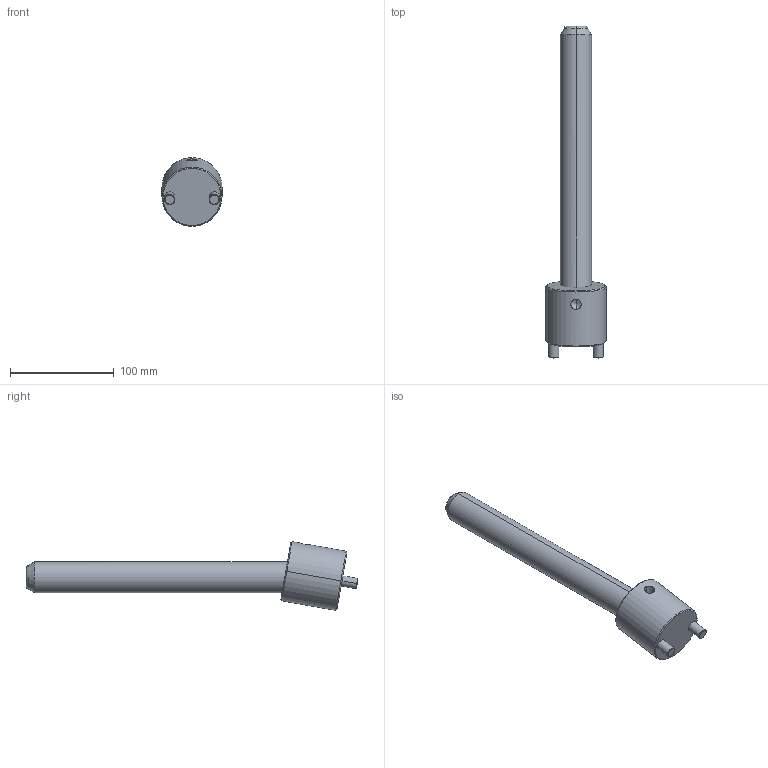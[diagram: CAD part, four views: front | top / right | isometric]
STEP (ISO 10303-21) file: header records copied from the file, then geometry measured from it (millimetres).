
FILE_DESCRIPTION(('CATIA V5 STEP Exchange'),'2;1');
FILE_NAME('C:\Users\Raffaele\Desktop\3D BOLEX\3D FILES CF BOLEX\19-INCLINED ASSEMBLY REF_CI\CI1030250.stp','2019-06-21T14:00:56+00:00',('none'),('none'),'CATIA Version 5 Release 20 GA (IN-10)','CATIA V5 STEP AP203','none');
FILE_SCHEMA(('CONFIG_CONTROL_DESIGN'));
Length unit declared in the file: millimetre
Products named in the file (1): CI1030250
Assembly tree (2 placements, depth 2):
  CI1030250
    #58
    #593
Bounding box: 58 x 320.76 x 66.32 mm (x, y, z)
Volume: 320322.6 mm3; surface area: 49690 mm2
Topology: 2 solids, 2 shells, 39 faces, 82 edges, 47 vertices
Faces by surface type: cone 14, cylinder 14, plane 7, torus 4
Entity records: 1548 total; most frequent: CARTESIAN_POINT 685, ORIENTED_EDGE 160, DIRECTION 147, EDGE_CURVE 80, AXIS2_PLACEMENT_3D 74, VERTEX_POINT 47, EDGE_LOOP 43, ADVANCED_FACE 39
